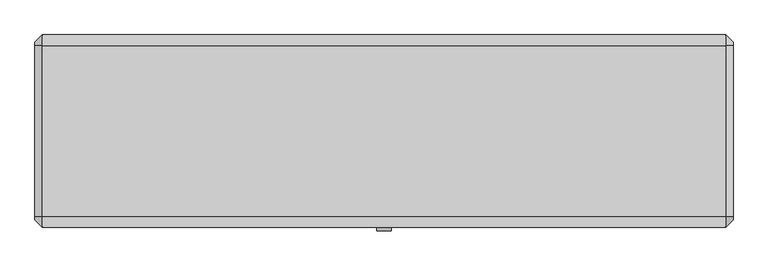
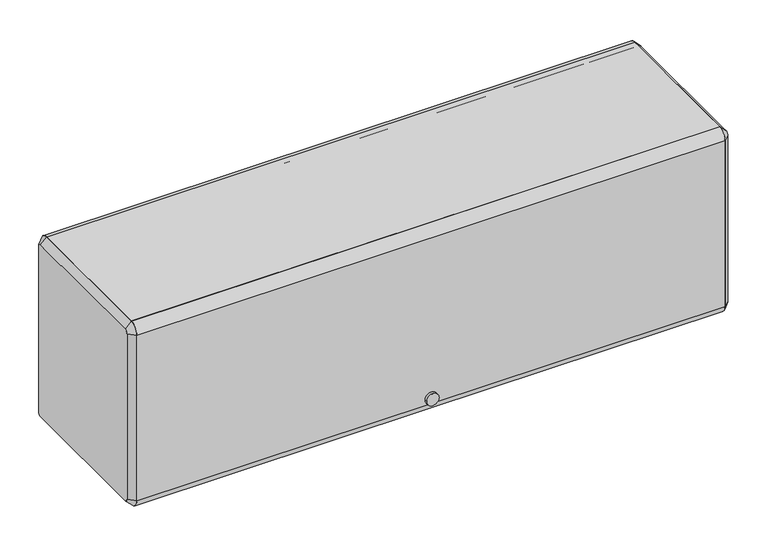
"""IFC4 building model written with IfcOpenShell, lengths in millimetres: furniture geometry."""

from ifc_helpers import new_model, si_unit, point, frame, frame_2d, origin, place, context, project, spatial, polyline, circle_curve, trimmed, segment, composite_curve, outline, extrude, source, transform, mapped, element, save
from ifc_brep_helpers import plane_surface, revolved_surface, advanced_brep


def furniture_33cd207f(model_context):
    return source(origin(), model_context, "Body", "SolidModel", [
        extrude(outline(composite_curve([segment(polyline([(-136.525, 2019.3), (-136.525, 2032.0), (161.925, 2032.0)]), True, "CONTINUOUS"), segment(trimmed(circle_curve(frame_2d((161.925, 2012.95)), 19.05), [point((161.925, 2032.0))], [point((180.975, 2012.95))], False, "CARTESIAN"), True, "CONTINUOUS"), segment(polyline([(180.975, 2012.95), (168.275, 2012.95)]), True, "CONTINUOUS"), segment(trimmed(circle_curve(frame_2d((161.925, 2012.95)), 6.35), [point((168.275, 2012.95))], [point((161.925, 2019.3))], True, "CARTESIAN"), True, "CONTINUOUS"), segment(polyline([(161.925, 2019.3), (-136.525, 2019.3)]), True, "CONTINUOUS")], self_intersect=False)), frame((-596.9, 0.0, 0.0), z_axis=(1.0, 0.0, 0.0), x_axis=(0.0, 1.0, 0.0)), (0.0, 0.0, 1.0), 1193.8),
        extrude(outline(composite_curve([segment(trimmed(circle_curve(frame_2d((-136.525, 2012.95)), 19.05), [point((-155.575, 2012.95))], [point((-136.525, 2032.0))], False, "CARTESIAN"), True, "CONTINUOUS"), segment(polyline([(-136.525, 2032.0), (-136.525, 2019.3)]), True, "CONTINUOUS"), segment(trimmed(circle_curve(frame_2d((-136.525, 2012.95)), 6.35), [point((-136.525, 2019.3))], [point((-142.875, 2012.95))], True, "CARTESIAN"), True, "CONTINUOUS"), segment(polyline([(-142.875, 2012.95), (-142.875, 1657.35)]), True, "CONTINUOUS"), segment(trimmed(circle_curve(frame_2d((-136.525, 1657.35)), 6.35), [point((-142.875, 1657.35))], [point((-136.525, 1651.0))], True, "CARTESIAN"), True, "CONTINUOUS"), segment(polyline([(-136.525, 1651.0), (-136.525, 1638.3)]), True, "CONTINUOUS"), segment(trimmed(circle_curve(frame_2d((-136.525, 1657.35)), 19.05), [point((-136.525, 1638.3))], [point((-155.575, 1657.35))], False, "CARTESIAN"), True, "CONTINUOUS"), segment(polyline([(-155.575, 1657.35), (-155.575, 2012.95)]), True, "CONTINUOUS")], self_intersect=False)), frame((-596.9, 0.0, 0.0), z_axis=(1.0, 0.0, 0.0), x_axis=(0.0, 1.0, 0.0)), (0.0, 0.0, 1.0), 1193.8),
        extrude(outline(composite_curve([segment(trimmed(circle_curve(frame_2d((1670.0118906, 0.0201199)), 12.7253951), [point((1670.0118906, 12.745515))], [point((1670.0118906, -12.7052752))], False, "CARTESIAN"), True, "CONTINUOUS"), segment(trimmed(circle_curve(frame_2d((1670.0118906, 0.0201199)), 12.7253951), [point((1670.0118906, -12.7052752))], [point((1670.0118906, 12.745515))], False, "CARTESIAN"), True, "CONTINUOUS")], self_intersect=False)), frame((0.0, -161.925, 0.0), z_axis=(0.0, 1.0, 0.0), x_axis=(0.0, 0.0, 1.0)), (0.0, 0.0, 1.0), 6.35),
        extrude(outline(polyline([(-136.525, 1676.4), (161.925, 1676.4), (161.925, 1714.5), (174.625, 1714.5), (174.625, 1711.325), (165.1, 1711.325), (165.1, 1673.225), (-133.35, 1673.225), (-133.35, 1654.175), (-136.525, 1654.175), (-136.525, 1676.4)])), frame((-596.9, 0.0, 0.0), z_axis=(1.0, 0.0, 0.0), x_axis=(0.0, 1.0, 0.0)), (0.0, 0.0, 1.0), 1193.8),
        advanced_brep(
        [(609.6, 161.925, 2019.3), (609.6, -136.525, 2019.3), (609.6, -142.875, 2012.95), (609.6, -142.875, 1657.35), (609.6, -136.525, 1651.0), (609.6, 161.925, 1651.0), (609.6, 168.275, 1657.35), (609.6, 168.275, 2012.95), (596.9, 161.925, 2032.0), (596.9, 180.975, 2012.95), (596.9, 180.975, 1657.35), (596.9, 161.925, 1638.3), (596.9, -136.525, 1638.3), (596.9, -155.575, 1657.35), (596.9, -155.575, 2012.95), (596.9, -136.525, 2032.0)],
        [
            (0, 1),
            (1, 2, circle_curve(frame((609.6, -136.525, 2012.95), z_axis=(1.0, 6.490807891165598e-12, -6.586731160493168e-12), x_axis=(6.586694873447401e-12, 0.0, 1.0)), 6.35)),
            (2, 3),
            (3, 4, circle_curve(frame((609.6, -136.525, 1657.35), z_axis=(1.0, 3.37330163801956e-12, 3.3892888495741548e-12), x_axis=(3.373343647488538e-12, -1.0, 0.0)), 6.35)),
            (4, 5),
            (5, 6, circle_curve(frame((609.6, 161.925, 1657.35), z_axis=(1.0, 3.3812952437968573e-12, -3.367972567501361e-12), x_axis=(-3.368005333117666e-12, 0.0, -1.0)), 6.35)),
            (6, 7),
            (7, 0, circle_curve(frame((609.6, 161.925, 2012.95), z_axis=(1.0, 6.4828142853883e-12, 6.416200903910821e-12), x_axis=(-6.482754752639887e-12, 1.0, 0.0)), 6.35)),
            (8, 9, circle_curve(frame((596.9, 161.925, 2012.95), z_axis=(-1.0, -6.4828142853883e-12, -6.416200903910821e-12), x_axis=(-6.482754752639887e-12, 1.0, 0.0)), 19.05)),
            (9, 10),
            (10, 11, circle_curve(frame((596.9, 161.925, 1657.35), z_axis=(-1.0, -3.3812952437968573e-12, 3.367972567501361e-12), x_axis=(-3.368005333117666e-12, 0.0, -1.0)), 19.05)),
            (11, 12),
            (12, 13, circle_curve(frame((596.9, -136.525, 1657.35), z_axis=(-1.0, -3.37330163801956e-12, -3.3892888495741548e-12), x_axis=(3.373343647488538e-12, -1.0, 0.0)), 19.05)),
            (13, 14),
            (14, 15, circle_curve(frame((596.9, -136.525, 2012.95), z_axis=(-1.0, -6.490807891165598e-12, 6.586731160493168e-12), x_axis=(6.586694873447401e-12, 0.0, 1.0)), 19.05)),
            (15, 8),
            (15, 1),
            (0, 8),
            (14, 2),
            (13, 3),
            (12, 4),
            (11, 5),
            (10, 6),
            (9, 7),
        ],
        [
            plane_surface(frame((609.6, 12.7, 1835.15), z_axis=(1.0, 0.0, 0.0), x_axis=(0.0, -1.0, 0.0))),
            plane_surface(frame((596.9, 12.7, 1835.15), z_axis=(-1.0, 0.0, 0.0), x_axis=(0.0, -1.0, 0.0))),
            plane_surface(frame((596.9, 12.7, 2032.0), z_axis=(0.7071067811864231, 0.0, 0.7071067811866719), x_axis=(0.0, -1.0, 0.0))),
            revolved_surface(polyline([(609.6000000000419, -136.525, 2019.2999999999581), (596.9, -136.525, 2032.0)]), (615.95, -136.525, 2012.95), (-1.0, -6.490807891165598e-12, 6.586731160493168e-12)),
            plane_surface(frame((596.9, -155.575, 1835.15), z_axis=(0.7071067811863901, -0.7071067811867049, 0.0), x_axis=(0.0, 0.0, -1.0))),
            revolved_surface(polyline([(609.6000000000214, -142.87499999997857, 1657.35), (596.8999999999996, -155.5750000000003, 1657.35)]), (615.95, -136.525, 1657.35), (-1.0, -3.37330163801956e-12, -3.3892888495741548e-12)),
            plane_surface(frame((596.9, 12.7, 1638.3), z_axis=(0.7071067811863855, 0.0, -0.7071067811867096), x_axis=(0.0, 1.0, 0.0))),
            revolved_surface(polyline([(609.6000000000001, 161.925, 1651.0), (596.8999999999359, 161.925, 1638.2999999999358)]), (615.95, 161.925, 1657.35), (-1.0, -3.3812952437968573e-12, 3.367972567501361e-12)),
            plane_surface(frame((596.9, 180.975, 1835.15), z_axis=(0.7071067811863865, 0.7071067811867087, 0.0), x_axis=(0.0, 0.0, 1.0))),
            revolved_surface(polyline([(609.6, 168.275, 2012.95), (596.8999999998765, 180.9750000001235, 2012.95)]), (615.95, 161.925, 2012.95), (-1.0, -6.4828142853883e-12, -6.416200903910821e-12)),
        ],
        [
            (0, [[1, 2, 3, 4, 5, 6, 7, 8]]),
            (1, [[9, 10, 11, 12, 13, 14, 15, 16]]),
            (2, [[-16, 17, -1, 18]]),
            (3, [[-15, 19, -2, -17]]),
            (4, [[-14, 20, -3, -19]]),
            (5, [[-13, 21, -4, -20]]),
            (6, [[-12, 22, -5, -21]]),
            (7, [[-11, 23, -6, -22]]),
            (8, [[-10, 24, -7, -23]]),
            (9, [[-9, -18, -8, -24]]),
        ],
    ),
        advanced_brep(
        [(-609.6, -136.525, 2019.3), (-609.6, 161.925, 2019.3), (-609.6, 168.275, 2012.95), (-609.6, 168.275, 1657.35), (-609.6, 161.925, 1651.0), (-609.6, -136.525, 1651.0), (-609.6, -142.875, 1657.35), (-609.6, -142.875, 2012.95), (-596.9, -136.525, 2032.0), (-596.9, -155.575, 2012.95), (-596.9, -155.575, 1657.35), (-596.9, -136.525, 1638.3), (-596.9, 161.925, 1638.3), (-596.9, 180.975, 1657.35), (-596.9, 180.975, 2012.95), (-596.9, 161.925, 2032.0)],
        [
            (0, 1),
            (1, 2, circle_curve(frame((-609.6, 161.925, 2012.95), z_axis=(-1.0, 3.365308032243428e-12, 3.4319214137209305e-12), x_axis=(3.4319080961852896e-12, 0.0, 1.0)), 6.35)),
            (2, 3),
            (3, 4, circle_curve(frame((-609.6, 161.925, 1657.35), z_axis=(-1.0, 0.0, 0.0), x_axis=(0.0, 1.0, 0.0)), 6.35)),
            (4, 5),
            (5, 6, circle_curve(frame((-609.6, -136.525, 1657.35), z_axis=(-1.0, 0.0, 0.0), x_axis=(0.0, 0.0, -1.0)), 6.35)),
            (6, 7),
            (7, 0, circle_curve(frame((-609.6, -136.525, 2012.95), z_axis=(-1.0, 3.3839597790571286e-12, -3.3253400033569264e-12), x_axis=(-3.38402027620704e-12, -1.0, 0.0)), 6.35)),
            (8, 9, circle_curve(frame((-596.9, -136.525, 2012.95), z_axis=(1.0, -3.3839597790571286e-12, 3.3253400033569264e-12), x_axis=(-3.38402027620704e-12, -1.0, 0.0)), 19.05)),
            (9, 10),
            (10, 11, circle_curve(frame((-596.9, -136.525, 1657.35), z_axis=(1.0, 0.0, 0.0), x_axis=(0.0, 0.0, -1.0)), 19.05)),
            (11, 12),
            (12, 13, circle_curve(frame((-596.9, 161.925, 1657.35), z_axis=(1.0, 0.0, 0.0), x_axis=(0.0, 1.0, 0.0)), 19.05)),
            (13, 14),
            (14, 15, circle_curve(frame((-596.9, 161.925, 2012.95), z_axis=(1.0, -3.365308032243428e-12, -3.4319214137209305e-12), x_axis=(3.4319080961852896e-12, 0.0, 1.0)), 19.05)),
            (15, 8),
            (15, 1),
            (0, 8),
            (14, 2),
            (13, 3),
            (12, 4),
            (11, 5),
            (10, 6),
            (9, 7),
        ],
        [
            plane_surface(frame((-609.6, 12.7, 1835.15), z_axis=(-1.0, 0.0, 0.0), x_axis=(0.0, -1.0, 0.0))),
            plane_surface(frame((-596.9, 12.7, 1835.15), z_axis=(1.0, 0.0, 0.0), x_axis=(0.0, -1.0, 0.0))),
            plane_surface(frame((-596.9, 12.7, 2032.0), z_axis=(-0.7071067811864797, 0.0, 0.7071067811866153), x_axis=(0.0, 1.0, 0.0))),
            revolved_surface(polyline([(-609.6, 161.925, 2019.3), (-596.8999999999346, 161.925, 2032.0000000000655)]), (-615.95, 161.925, 2012.95), (1.0, -3.365308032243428e-12, -3.4319214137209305e-12)),
            plane_surface(frame((-596.9, 180.975, 1835.15), z_axis=(-0.7071067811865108, 0.7071067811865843, 0.0), x_axis=(0.0, 0.0, -1.0))),
            revolved_surface(polyline([(-609.6, 168.275, 1657.35), (-596.9, 180.975, 1657.35)]), (-615.95, 161.925, 1657.35), (1.0, 0.0, 0.0)),
            plane_surface(frame((-596.9, 12.7, 1638.3), z_axis=(-0.7071067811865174, 0.0, -0.7071067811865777), x_axis=(0.0, -1.0, 0.0))),
            revolved_surface(polyline([(-609.6, -136.525, 1651.0), (-596.9, -136.525, 1638.3)]), (-615.95, -136.525, 1657.35), (1.0, 0.0, 0.0)),
            plane_surface(frame((-596.9, -155.575, 1835.15), z_axis=(-0.7071067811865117, -0.7071067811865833, 0.0), x_axis=(0.0, 0.0, 1.0))),
            revolved_surface(polyline([(-609.6000000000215, -142.8749999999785, 2012.95), (-596.9, -155.575, 2012.95)]), (-615.95, -136.525, 2012.95), (1.0, -3.3839597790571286e-12, 3.3253400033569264e-12)),
        ],
        [
            (0, [[1, 2, 3, 4, 5, 6, 7, 8]]),
            (1, [[9, 10, 11, 12, 13, 14, 15, 16]]),
            (2, [[-16, 17, -1, 18]]),
            (3, [[-15, 19, -2, -17]]),
            (4, [[-14, 20, -3, -19]]),
            (5, [[-13, 21, -4, -20]]),
            (6, [[-12, 22, -5, -21]]),
            (7, [[-11, 23, -6, -22]]),
            (8, [[-10, 24, -7, -23]]),
            (9, [[-9, -18, -8, -24]]),
        ],
    ),
    ])


if __name__ == "__main__":
    model = new_model("IFC4")
    model_context = context("Model", 3, world=origin())
    ifc_project = project(units=[si_unit("LENGTHUNIT", "METRE", prefix="MILLI")], contexts=[model_context])
    site = spatial("IfcSite", under=ifc_project)
    building = spatial("IfcBuilding", under=site)
    placement = place(None, origin())
    furniture_shape = furniture_33cd207f(model_context)
    element("IfcFurniture", 1, ObjectType="HermanMiller_ActionOffice_A3352_B-StyleFlipperDoorUnit : 15 1/2\"H x 13\"D x 48\"W", at=placement, inside=building, context=model_context, shape_type="MappedRepresentation", body=[
        mapped(furniture_shape, transform((0.0, 0.0, 0.0), x_axis=(1.0, 0.0, 0.0), y_axis=(0.0, 1.0, 0.0), z_axis=(0.0, 0.0, 1.0))),
    ])
    save(model, "model.ifc")
